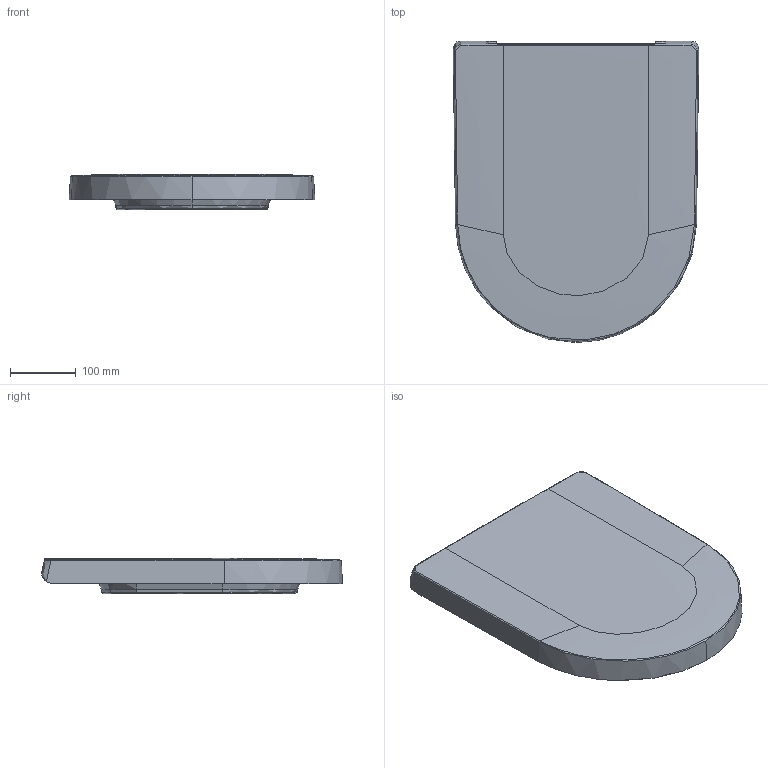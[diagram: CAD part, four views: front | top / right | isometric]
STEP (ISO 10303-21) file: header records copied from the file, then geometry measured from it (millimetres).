
FILE_DESCRIPTION(/* description */ (''),/* implementation_level */ '2;1');
FILE_NAME(/* name */ '002761',/* time_stamp */ '2024-10-24T10:39:47+02:00',/* author */ (''),/* organization */ (''),/* preprocessor_version */ 'ST-DEVELOPER v15',/* originating_system */ '',/* authorisation */ '');
FILE_SCHEMA (('AUTOMOTIVE_DESIGN'));
Length unit declared in the file: millimetre
Products named in the file (1): Document
Bounding box: 373.52 x 458.02 x 54.53 mm (x, y, z)
Surface area: 639103.7 mm2 (no closed solid volume)
Topology: 0 solids, 2 shells, 514 faces, 1252 edges, 693 vertices
Faces by surface type: bspline 467, plane 47
Entity records: 38094 total; most frequent: CARTESIAN_POINT 31595, ORIENTED_EDGE 2400, EDGE_CURVE 1228, VERTEX_POINT 693, EDGE_LOOP 519, ADVANCED_FACE 514, FACE_OUTER_BOUND 514, B_SPLINE_CURVE_WITH_KNOTS 454
